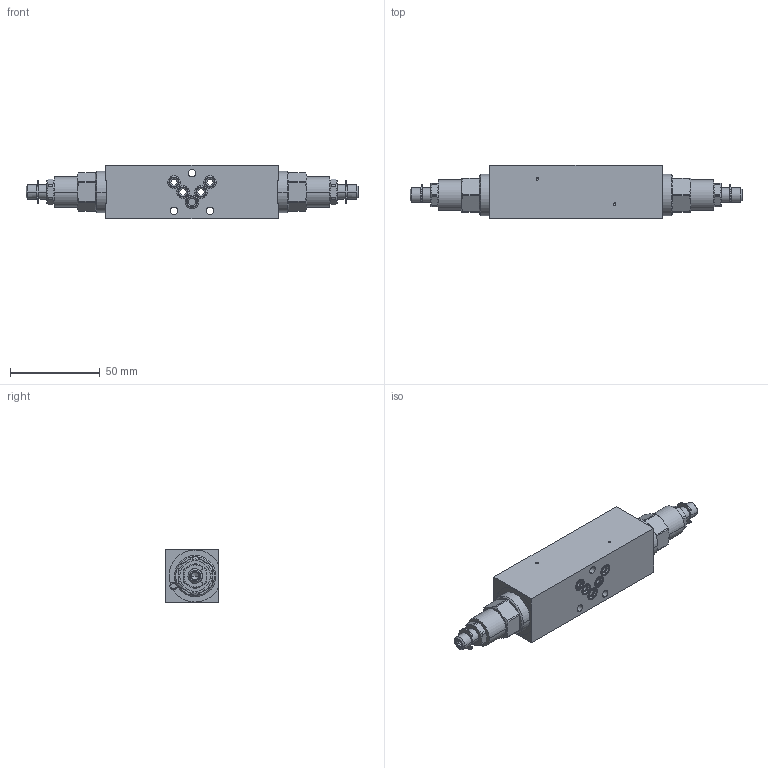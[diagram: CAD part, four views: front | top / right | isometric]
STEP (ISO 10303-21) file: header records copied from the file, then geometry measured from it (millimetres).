
FILE_DESCRIPTION (( 'STEP AP214' ), '1' );
FILE_NAME ('G.SSA03-AB.STEP', '2017-03-23T07:32:13', ( '' ), ( '' ), 'SwSTEP 2.0', 'SolidWorks 2016', '' );
FILE_SCHEMA (( 'AUTOMOTIVE_DESIGN' ));
Length unit declared in the file: millimetre
Products named in the file (1): G.SSA03-AB
Bounding box: 184.6 x 29.5 x 30 mm (x, y, z)
Volume: 100943.8 mm3; surface area: 21989.2 mm2
Topology: 10 solids, 16 shells, 476 faces, 1148 edges, 706 vertices
Faces by surface type: cylinder 176, plane 164, cone 88, bspline 40, sphere 8
Entity records: 19966 total; most frequent: CARTESIAN_POINT 3733, DIRECTION 2366, ORIENTED_EDGE 2240, EDGE_CURVE 1120, AXIS2_PLACEMENT_3D 965, VERTEX_POINT 706, EDGE_LOOP 530, CIRCLE 528
